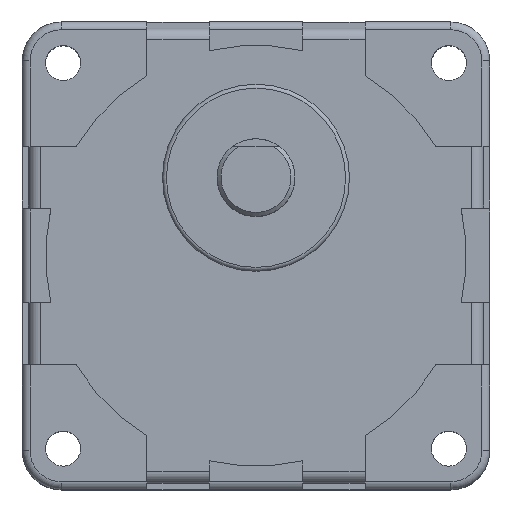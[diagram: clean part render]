
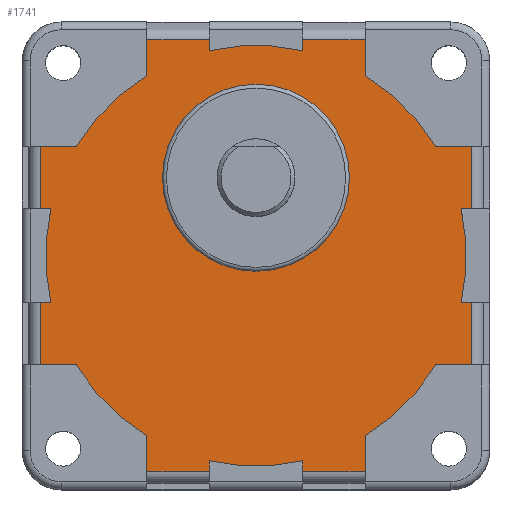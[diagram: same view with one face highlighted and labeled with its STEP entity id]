
A CAD part, top view. The second image highlights one B-rep face of the part: STEP entity #1741.
In plain terms, the highlighted planar face has unit normal (0, 0, 1).
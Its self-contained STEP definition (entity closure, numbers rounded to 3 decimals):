
#29=LINE('',#2638,#196);
#33=LINE('',#2650,#200);
#35=LINE('',#2656,#202);
#36=LINE('',#2660,#203);
#37=LINE('',#2662,#204);
#38=LINE('',#2664,#205);
#39=LINE('',#2668,#206);
#40=LINE('',#2670,#207);
#41=LINE('',#2672,#208);
#42=LINE('',#2676,#209);
#43=LINE('',#2678,#210);
#44=LINE('',#2680,#211);
#45=LINE('',#2684,#212);
#46=LINE('',#2686,#213);
#47=LINE('',#2688,#214);
#48=LINE('',#2692,#215);
#49=LINE('',#2694,#216);
#50=LINE('',#2696,#217);
#51=LINE('',#2700,#218);
#52=LINE('',#2702,#219);
#53=LINE('',#2704,#220);
#54=LINE('',#2707,#221);
#55=LINE('',#2709,#222);
#56=LINE('',#2712,#223);
#196=VECTOR('',#2099,8.);
#200=VECTOR('',#2109,8.);
#202=VECTOR('',#2115,4.613);
#203=VECTOR('',#2118,4.613);
#204=VECTOR('',#2119,8.);
#205=VECTOR('',#2120,1.375);
#206=VECTOR('',#2123,1.375);
#207=VECTOR('',#2124,8.);
#208=VECTOR('',#2125,4.613);
#209=VECTOR('',#2128,4.613);
#210=VECTOR('',#2129,8.);
#211=VECTOR('',#2130,1.375);
#212=VECTOR('',#2133,1.375);
#213=VECTOR('',#2134,8.);
#214=VECTOR('',#2135,4.613);
#215=VECTOR('',#2138,4.613);
#216=VECTOR('',#2139,8.);
#217=VECTOR('',#2140,1.375);
#218=VECTOR('',#2143,1.375);
#219=VECTOR('',#2144,8.);
#220=VECTOR('',#2145,4.613);
#221=VECTOR('',#2148,4.613);
#222=VECTOR('',#2149,1.375);
#223=VECTOR('',#2152,1.375);
#364=PLANE('',#1867);
#461=FACE_BOUND('',#602,.T.);
#488=FACE_OUTER_BOUND('',#601,.T.);
#601=EDGE_LOOP('',(#1269,#1270,#1271,#1272,#1273,#1274,#1275,#1276,#1277,
#1278,#1279,#1280,#1281,#1282,#1283,#1284,#1285,#1286,#1287,#1288,#1289,
#1290,#1291,#1292,#1293,#1294,#1295,#1296,#1297,#1298,#1299,#1300));
#602=EDGE_LOOP('',(#1301));
#711=CIRCLE('',#1858,12.);
#716=CIRCLE('',#1868,27.);
#717=CIRCLE('',#1869,27.);
#718=CIRCLE('',#1870,27.);
#719=CIRCLE('',#1871,27.);
#720=CIRCLE('',#1872,27.);
#721=CIRCLE('',#1873,27.);
#722=CIRCLE('',#1874,27.);
#723=CIRCLE('',#1875,27.);
#805=VERTEX_POINT('',#2627);
#806=VERTEX_POINT('',#2631);
#809=VERTEX_POINT('',#2636);
#813=VERTEX_POINT('',#2647);
#814=VERTEX_POINT('',#2649);
#816=VERTEX_POINT('',#2655);
#817=VERTEX_POINT('',#2657);
#818=VERTEX_POINT('',#2659);
#819=VERTEX_POINT('',#2661);
#820=VERTEX_POINT('',#2663);
#821=VERTEX_POINT('',#2665);
#822=VERTEX_POINT('',#2667);
#823=VERTEX_POINT('',#2669);
#824=VERTEX_POINT('',#2671);
#825=VERTEX_POINT('',#2673);
#826=VERTEX_POINT('',#2675);
#827=VERTEX_POINT('',#2677);
#828=VERTEX_POINT('',#2679);
#829=VERTEX_POINT('',#2681);
#830=VERTEX_POINT('',#2683);
#831=VERTEX_POINT('',#2685);
#832=VERTEX_POINT('',#2687);
#833=VERTEX_POINT('',#2689);
#834=VERTEX_POINT('',#2691);
#835=VERTEX_POINT('',#2693);
#836=VERTEX_POINT('',#2695);
#837=VERTEX_POINT('',#2697);
#838=VERTEX_POINT('',#2699);
#839=VERTEX_POINT('',#2701);
#840=VERTEX_POINT('',#2703);
#841=VERTEX_POINT('',#2705);
#842=VERTEX_POINT('',#2708);
#843=VERTEX_POINT('',#2710);
#982=EDGE_CURVE('',#805,#805,#711,.T.);
#986=EDGE_CURVE('',#809,#806,#29,.T.);
#991=EDGE_CURVE('',#813,#814,#33,.T.);
#994=EDGE_CURVE('',#809,#816,#35,.T.);
#995=EDGE_CURVE('',#817,#816,#716,.T.);
#996=EDGE_CURVE('',#818,#817,#36,.T.);
#997=EDGE_CURVE('',#819,#818,#37,.T.);
#998=EDGE_CURVE('',#820,#819,#38,.T.);
#999=EDGE_CURVE('',#821,#820,#717,.T.);
#1000=EDGE_CURVE('',#821,#822,#39,.T.);
#1001=EDGE_CURVE('',#823,#822,#40,.T.);
#1002=EDGE_CURVE('',#823,#824,#41,.T.);
#1003=EDGE_CURVE('',#825,#824,#718,.T.);
#1004=EDGE_CURVE('',#826,#825,#42,.T.);
#1005=EDGE_CURVE('',#827,#826,#43,.T.);
#1006=EDGE_CURVE('',#828,#827,#44,.T.);
#1007=EDGE_CURVE('',#829,#828,#719,.T.);
#1008=EDGE_CURVE('',#829,#830,#45,.T.);
#1009=EDGE_CURVE('',#831,#830,#46,.T.);
#1010=EDGE_CURVE('',#831,#832,#47,.T.);
#1011=EDGE_CURVE('',#833,#832,#720,.T.);
#1012=EDGE_CURVE('',#834,#833,#48,.T.);
#1013=EDGE_CURVE('',#835,#834,#49,.T.);
#1014=EDGE_CURVE('',#836,#835,#50,.T.);
#1015=EDGE_CURVE('',#837,#836,#721,.T.);
#1016=EDGE_CURVE('',#837,#838,#51,.T.);
#1017=EDGE_CURVE('',#839,#838,#52,.T.);
#1018=EDGE_CURVE('',#839,#840,#53,.T.);
#1019=EDGE_CURVE('',#841,#840,#722,.T.);
#1020=EDGE_CURVE('',#814,#841,#54,.T.);
#1021=EDGE_CURVE('',#842,#813,#55,.T.);
#1022=EDGE_CURVE('',#843,#842,#723,.T.);
#1023=EDGE_CURVE('',#843,#806,#56,.T.);
#1269=ORIENTED_EDGE('',*,*,#986,.F.);
#1270=ORIENTED_EDGE('',*,*,#994,.T.);
#1271=ORIENTED_EDGE('',*,*,#995,.F.);
#1272=ORIENTED_EDGE('',*,*,#996,.F.);
#1273=ORIENTED_EDGE('',*,*,#997,.F.);
#1274=ORIENTED_EDGE('',*,*,#998,.F.);
#1275=ORIENTED_EDGE('',*,*,#999,.F.);
#1276=ORIENTED_EDGE('',*,*,#1000,.T.);
#1277=ORIENTED_EDGE('',*,*,#1001,.F.);
#1278=ORIENTED_EDGE('',*,*,#1002,.T.);
#1279=ORIENTED_EDGE('',*,*,#1003,.F.);
#1280=ORIENTED_EDGE('',*,*,#1004,.F.);
#1281=ORIENTED_EDGE('',*,*,#1005,.F.);
#1282=ORIENTED_EDGE('',*,*,#1006,.F.);
#1283=ORIENTED_EDGE('',*,*,#1007,.F.);
#1284=ORIENTED_EDGE('',*,*,#1008,.T.);
#1285=ORIENTED_EDGE('',*,*,#1009,.F.);
#1286=ORIENTED_EDGE('',*,*,#1010,.T.);
#1287=ORIENTED_EDGE('',*,*,#1011,.F.);
#1288=ORIENTED_EDGE('',*,*,#1012,.F.);
#1289=ORIENTED_EDGE('',*,*,#1013,.F.);
#1290=ORIENTED_EDGE('',*,*,#1014,.F.);
#1291=ORIENTED_EDGE('',*,*,#1015,.F.);
#1292=ORIENTED_EDGE('',*,*,#1016,.T.);
#1293=ORIENTED_EDGE('',*,*,#1017,.F.);
#1294=ORIENTED_EDGE('',*,*,#1018,.T.);
#1295=ORIENTED_EDGE('',*,*,#1019,.F.);
#1296=ORIENTED_EDGE('',*,*,#1020,.F.);
#1297=ORIENTED_EDGE('',*,*,#991,.F.);
#1298=ORIENTED_EDGE('',*,*,#1021,.F.);
#1299=ORIENTED_EDGE('',*,*,#1022,.F.);
#1300=ORIENTED_EDGE('',*,*,#1023,.T.);
#1301=ORIENTED_EDGE('',*,*,#982,.F.);
#1741=ADVANCED_FACE('',(#488,#461),#364,.T.);
#1858=AXIS2_PLACEMENT_3D('',#2628,#2088,#2089);
#1867=AXIS2_PLACEMENT_3D('',#2654,#2113,#2114);
#1868=AXIS2_PLACEMENT_3D('',#2658,#2116,#2117);
#1869=AXIS2_PLACEMENT_3D('',#2666,#2121,#2122);
#1870=AXIS2_PLACEMENT_3D('',#2674,#2126,#2127);
#1871=AXIS2_PLACEMENT_3D('',#2682,#2131,#2132);
#1872=AXIS2_PLACEMENT_3D('',#2690,#2136,#2137);
#1873=AXIS2_PLACEMENT_3D('',#2698,#2141,#2142);
#1874=AXIS2_PLACEMENT_3D('',#2706,#2146,#2147);
#1875=AXIS2_PLACEMENT_3D('',#2711,#2150,#2151);
#2088=DIRECTION('center_axis',(0.,0.,1.));
#2089=DIRECTION('ref_axis',(-1.,0.,0.));
#2099=DIRECTION('',(0.,-1.,0.));
#2109=DIRECTION('',(0.,-1.,0.));
#2113=DIRECTION('center_axis',(0.,0.,1.));
#2114=DIRECTION('ref_axis',(1.,0.,0.));
#2115=DIRECTION('',(-1.,0.,0.));
#2116=DIRECTION('center_axis',(0.,0.,-1.));
#2117=DIRECTION('ref_axis',(-1.,0.,0.));
#2118=DIRECTION('',(0.,-1.,0.));
#2119=DIRECTION('',(1.,0.,0.));
#2120=DIRECTION('',(0.,1.,0.));
#2121=DIRECTION('center_axis',(0.,0.,-1.));
#2122=DIRECTION('ref_axis',(-1.,0.,0.));
#2123=DIRECTION('',(0.,1.,0.));
#2124=DIRECTION('',(1.,0.,0.));
#2125=DIRECTION('',(0.,-1.,0.));
#2126=DIRECTION('center_axis',(0.,0.,-1.));
#2127=DIRECTION('ref_axis',(-1.,0.,0.));
#2128=DIRECTION('',(1.,0.,0.));
#2129=DIRECTION('',(0.,1.,0.));
#2130=DIRECTION('',(-1.,0.,0.));
#2131=DIRECTION('center_axis',(0.,0.,-1.));
#2132=DIRECTION('ref_axis',(-1.,0.,0.));
#2133=DIRECTION('',(-1.,0.,0.));
#2134=DIRECTION('',(0.,1.,0.));
#2135=DIRECTION('',(1.,0.,0.));
#2136=DIRECTION('center_axis',(0.,0.,-1.));
#2137=DIRECTION('ref_axis',(-1.,0.,0.));
#2138=DIRECTION('',(0.,1.,0.));
#2139=DIRECTION('',(-1.,0.,0.));
#2140=DIRECTION('',(0.,-1.,0.));
#2141=DIRECTION('center_axis',(0.,0.,-1.));
#2142=DIRECTION('ref_axis',(-1.,0.,0.));
#2143=DIRECTION('',(0.,-1.,0.));
#2144=DIRECTION('',(-1.,0.,0.));
#2145=DIRECTION('',(0.,1.,0.));
#2146=DIRECTION('center_axis',(0.,0.,-1.));
#2147=DIRECTION('ref_axis',(-1.,0.,0.));
#2148=DIRECTION('',(-1.,0.,0.));
#2149=DIRECTION('',(1.,0.,0.));
#2150=DIRECTION('center_axis',(0.,0.,-1.));
#2151=DIRECTION('ref_axis',(-1.,0.,0.));
#2152=DIRECTION('',(1.,0.,0.));
#2627=CARTESIAN_POINT('',(12.,10.,37.2));
#2628=CARTESIAN_POINT('Origin',(0.,10.,37.2));
#2631=CARTESIAN_POINT('',(27.7,6.,37.2));
#2636=CARTESIAN_POINT('',(27.7,14.,37.2));
#2638=CARTESIAN_POINT('',(27.7,7.,37.2));
#2647=CARTESIAN_POINT('',(27.7,-6.,37.2));
#2649=CARTESIAN_POINT('',(27.7,-14.,37.2));
#2650=CARTESIAN_POINT('',(27.7,-7.,37.2));
#2654=CARTESIAN_POINT('Origin',(0.,0.,37.2));
#2655=CARTESIAN_POINT('',(23.087,14.,37.2));
#2656=CARTESIAN_POINT('',(23.087,14.,37.2));
#2657=CARTESIAN_POINT('',(14.,23.087,37.2));
#2658=CARTESIAN_POINT('Origin',(0.,0.,37.2));
#2659=CARTESIAN_POINT('',(14.,27.7,37.2));
#2660=CARTESIAN_POINT('',(14.,23.087,37.2));
#2661=CARTESIAN_POINT('',(6.,27.7,37.2));
#2662=CARTESIAN_POINT('',(7.,27.7,37.2));
#2663=CARTESIAN_POINT('',(6.,26.325,37.2));
#2664=CARTESIAN_POINT('',(6.,30.,37.2));
#2665=CARTESIAN_POINT('',(-6.,26.325,37.2));
#2666=CARTESIAN_POINT('Origin',(0.,0.,37.2));
#2667=CARTESIAN_POINT('',(-6.,27.7,37.2));
#2668=CARTESIAN_POINT('',(-6.,30.,37.2));
#2669=CARTESIAN_POINT('',(-14.,27.7,37.2));
#2670=CARTESIAN_POINT('',(-7.,27.7,37.2));
#2671=CARTESIAN_POINT('',(-14.,23.087,37.2));
#2672=CARTESIAN_POINT('',(-14.,23.087,37.2));
#2673=CARTESIAN_POINT('',(-23.087,14.,37.2));
#2674=CARTESIAN_POINT('Origin',(0.,0.,37.2));
#2675=CARTESIAN_POINT('',(-27.7,14.,37.2));
#2676=CARTESIAN_POINT('',(-23.087,14.,37.2));
#2677=CARTESIAN_POINT('',(-27.7,6.,37.2));
#2678=CARTESIAN_POINT('',(-27.7,7.,37.2));
#2679=CARTESIAN_POINT('',(-26.325,6.,37.2));
#2680=CARTESIAN_POINT('',(-30.,6.,37.2));
#2681=CARTESIAN_POINT('',(-26.325,-6.,37.2));
#2682=CARTESIAN_POINT('Origin',(0.,0.,37.2));
#2683=CARTESIAN_POINT('',(-27.7,-6.,37.2));
#2684=CARTESIAN_POINT('',(-30.,-6.,37.2));
#2685=CARTESIAN_POINT('',(-27.7,-14.,37.2));
#2686=CARTESIAN_POINT('',(-27.7,-7.,37.2));
#2687=CARTESIAN_POINT('',(-23.087,-14.,37.2));
#2688=CARTESIAN_POINT('',(-23.087,-14.,37.2));
#2689=CARTESIAN_POINT('',(-14.,-23.087,37.2));
#2690=CARTESIAN_POINT('Origin',(0.,0.,37.2));
#2691=CARTESIAN_POINT('',(-14.,-27.7,37.2));
#2692=CARTESIAN_POINT('',(-14.,-23.087,37.2));
#2693=CARTESIAN_POINT('',(-6.,-27.7,37.2));
#2694=CARTESIAN_POINT('',(-7.,-27.7,37.2));
#2695=CARTESIAN_POINT('',(-6.,-26.325,37.2));
#2696=CARTESIAN_POINT('',(-6.,-30.,37.2));
#2697=CARTESIAN_POINT('',(6.,-26.325,37.2));
#2698=CARTESIAN_POINT('Origin',(0.,0.,37.2));
#2699=CARTESIAN_POINT('',(6.,-27.7,37.2));
#2700=CARTESIAN_POINT('',(6.,-30.,37.2));
#2701=CARTESIAN_POINT('',(14.,-27.7,37.2));
#2702=CARTESIAN_POINT('',(7.,-27.7,37.2));
#2703=CARTESIAN_POINT('',(14.,-23.087,37.2));
#2704=CARTESIAN_POINT('',(14.,-23.087,37.2));
#2705=CARTESIAN_POINT('',(23.087,-14.,37.2));
#2706=CARTESIAN_POINT('Origin',(0.,0.,37.2));
#2707=CARTESIAN_POINT('',(23.087,-14.,37.2));
#2708=CARTESIAN_POINT('',(26.325,-6.,37.2));
#2709=CARTESIAN_POINT('',(30.,-6.,37.2));
#2710=CARTESIAN_POINT('',(26.325,6.,37.2));
#2711=CARTESIAN_POINT('Origin',(0.,0.,37.2));
#2712=CARTESIAN_POINT('',(30.,6.,37.2));
